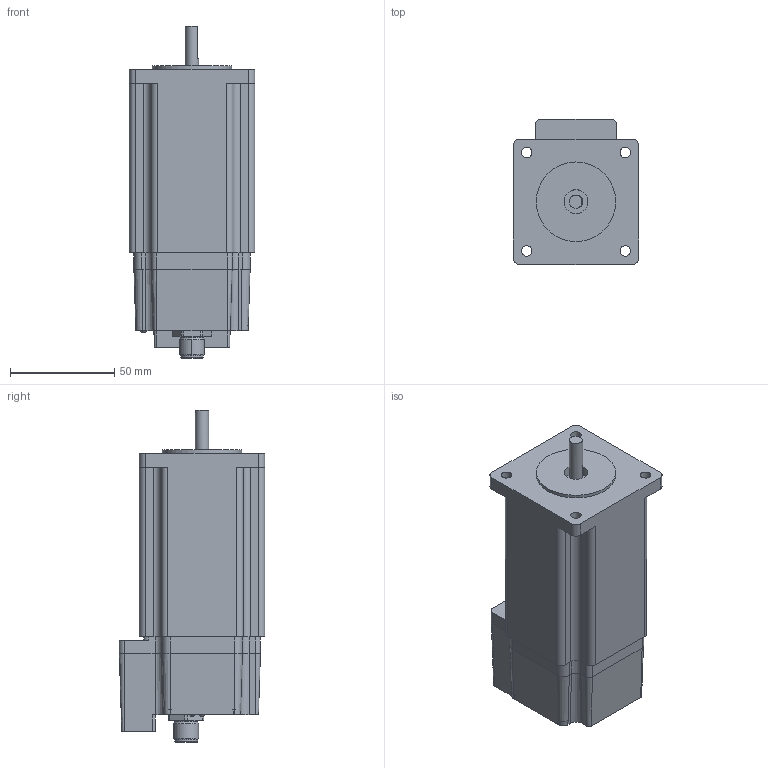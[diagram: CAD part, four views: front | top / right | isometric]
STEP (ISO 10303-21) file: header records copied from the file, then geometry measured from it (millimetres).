
FILE_DESCRIPTION(/* description */ ('Alibre Inc.'),/* implementation_level */ '2;1');
FILE_NAME(/* name */ 'export-4ADC91B9-68ED-4B90-97E2-58546AEE748B',/* time_stamp */ '2026-03-03T11:53:27-05:00',/* author */ (''),/* organization */ (''),/* preprocessor_version */ 'ST-DEVELOPER v17',/* originating_system */ 'Alibre',/* authorisation */ '');
FILE_SCHEMA (('CONFIG_CONTROL_DESIGN'));
Length unit declared in the file: millimetre
Bounding box: 60 x 69.62 x 158.93 mm (x, y, z)
Volume: 399498.5 mm3; surface area: 45432.4 mm2
Topology: 1 solids, 22 shells, 551 faces, 1288 edges, 841 vertices
Faces by surface type: plane 210, cylinder 200, bspline 64, cone 45, torus 28, sphere 4
Full cylindrical faces by diameter (mm): 1.1 x8, 2 x4, 2.433 x4, 2.87 x4, 2.92 x2, 3 x5, 3.556 x4, 5 x4, 5.44 x4, 6.35 x1, 7.938 x1, 8 x2, 8.35 x1, 11 x1, 11.4 x2, 12.7 x1, 26 x1, 38.1 x1
Entity records: 16197 total; most frequent: CARTESIAN_POINT 4281, ORIENTED_EDGE 2388, DIRECTION 2244, EDGE_CURVE 1194, AXIS2_PLACEMENT_3D 963, VERTEX_POINT 812, EDGE_LOOP 700, FACE_BOUND 700
